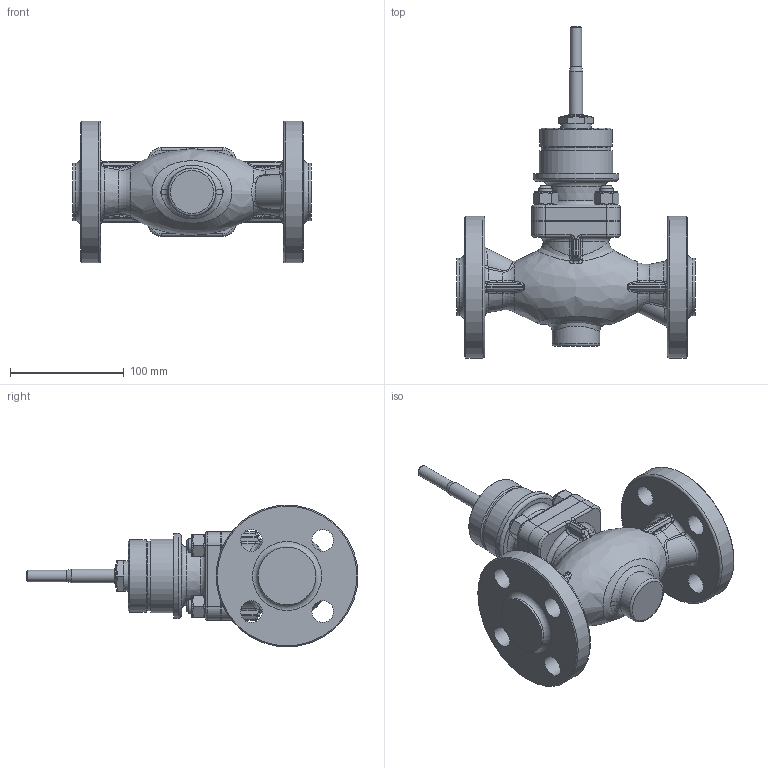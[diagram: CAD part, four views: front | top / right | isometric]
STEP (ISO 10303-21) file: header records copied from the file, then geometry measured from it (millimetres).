
FILE_DESCRIPTION(/* description */ (''),/* implementation_level */ '2;1');
FILE_NAME(/* name */ 'CV3xx_NPS_1_priruba_CL600.stp',/* time_stamp */ '2014-01-07T07:30:11+01:00',/* author */ (''),/* organization */ ('LDM'),/* preprocessor_version */ 'ST-DEVELOPER v11',/* originating_system */ 'SIEMENS PLM Software NX 7.0',/* authorisation */ '');
FILE_SCHEMA (('CONFIG_CONTROL_DESIGN'));
Length unit declared in the file: millimetre
Products named in the file (1): adamED63yt0t
Bounding box: 210 x 292.5 x 125 mm (x, y, z)
Volume: 1332081.6 mm3; surface area: 144756.6 mm2
Topology: 1 solids, 5 shells, 488 faces, 1116 edges, 655 vertices
Faces by surface type: cylinder 124, bspline 120, plane 109, cone 82, torus 45, sphere 8
Full cylindrical faces by diameter (mm): 10 x1, 12 x13, 14 x1, 18 x1, 19 x8, 19.1 x8, 21 x1, 27 x1, 42 x1, 50.8 x2, 58 x1, 61.6 x1, 64 x1, 65 x1, 75 x1, 125 x2
Entity records: 15882 total; most frequent: CARTESIAN_POINT 6220, ORIENTED_EDGE 1994, DIRECTION 1844, EDGE_CURVE 997, AXIS2_PLACEMENT_3D 821, EDGE_LOOP 618, VERTEX_POINT 617, ADVANCED_FACE 488
